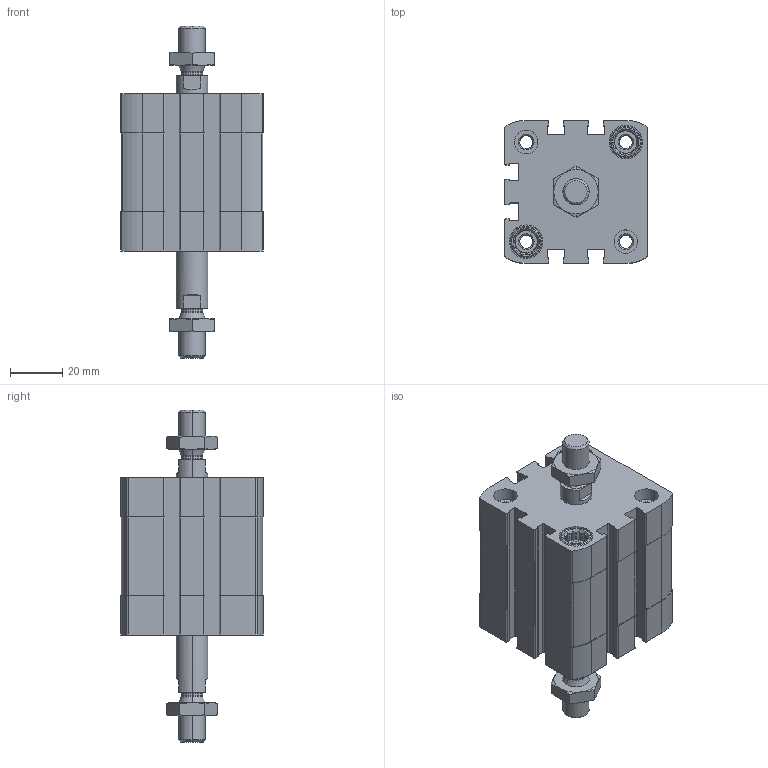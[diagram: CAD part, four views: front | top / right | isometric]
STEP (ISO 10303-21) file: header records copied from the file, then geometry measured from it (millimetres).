
FILE_DESCRIPTION (( 'STEP AP203' ), '1' );
FILE_NAME ('CCN40-15-P.STEP', '2020-06-22T18:51:16', ( '' ), ( '' ), 'SwSTEP 2.0', 'SolidWorks 2019', '' );
FILE_SCHEMA (( 'CONFIG_CONTROL_DESIGN' ));
Length unit declared in the file: millimetre
Products named in the file (1): CCN40-15-P
Bounding box: 54.5 x 54.5 x 126.6 mm (x, y, z)
Volume: 144768.2 mm3; surface area: 45644.4 mm2
Topology: 4 solids, 4 shells, 536 faces, 1416 edges, 920 vertices
Faces by surface type: plane 288, cylinder 180, cone 60, torus 8
Entity records: 17371 total; most frequent: CARTESIAN_POINT 3741, DIRECTION 2898, ORIENTED_EDGE 2832, EDGE_CURVE 1416, AXIS2_PLACEMENT_3D 1069, VERTEX_POINT 920, VECTOR 760, LINE 760
